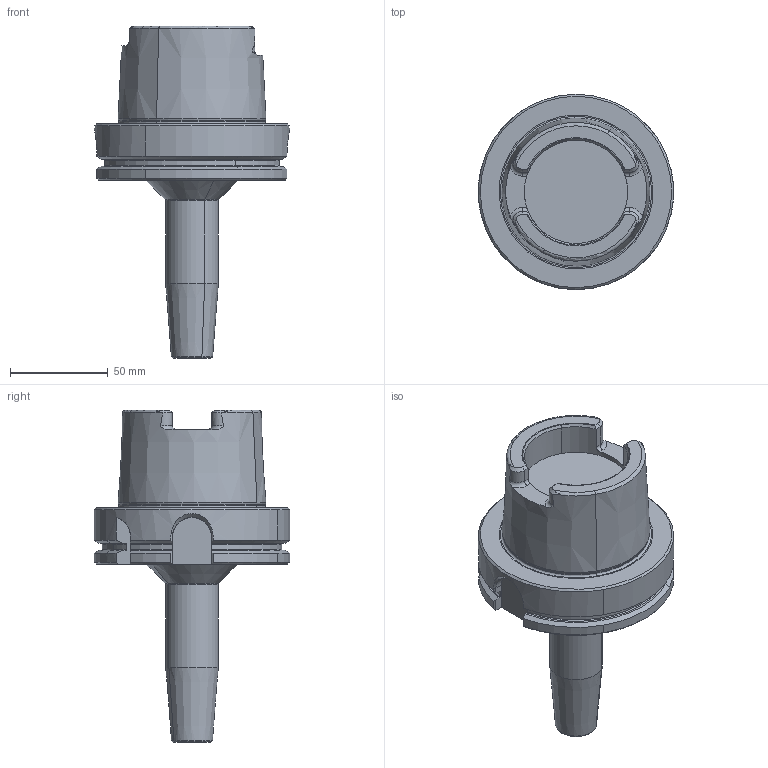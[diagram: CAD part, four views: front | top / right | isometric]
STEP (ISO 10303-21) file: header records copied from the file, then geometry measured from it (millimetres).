
FILE_DESCRIPTION(('CATIA V5 STEP','CAx-IF Rec.Pracs.--- Model Styling and Organization---1.2---2011-12-15'),'2;1');
FILE_NAME('\\nas01\drv1\utils\eitdev\rte\eit\transmagicconvert\db\out\4504208 L.stp','2014-04-02T08:43:04+00:00',('none'),('none'),'CATIA Version 5 Release 21 SP 5 (IN-10)','CATIA V5 STEP AP214','none');
FILE_SCHEMA(('AUTOMOTIVE_DESIGN { 1 0 10303 214 1 1 1 1 }'));
Length unit declared in the file: millimetre
Products named in the file (1): 60967321_0 Holder-Tool HSK A 100 SRKIN 6X120
Bounding box: 99.99 x 100 x 170 mm (x, y, z)
Volume: 437804 mm3; surface area: 45792.9 mm2
Topology: 1 solids, 1 shells, 155 faces, 399 edges, 249 vertices
Faces by surface type: plane 48, cone 38, cylinder 33, torus 32, bspline 2, extrusion 2
Entity records: 4902 total; most frequent: CARTESIAN_POINT 1598, ORIENTED_EDGE 798, DIRECTION 477, EDGE_CURVE 399, AXIS2_PLACEMENT_3D 252, VERTEX_POINT 249, CIRCLE 163, EDGE_LOOP 158
